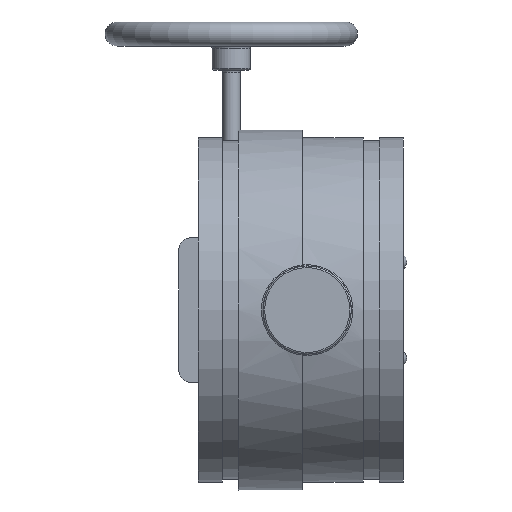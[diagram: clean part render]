
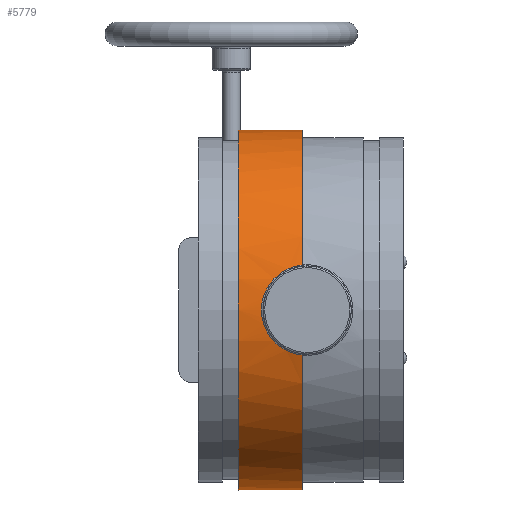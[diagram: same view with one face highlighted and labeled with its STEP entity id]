
A CAD part, front view. The second image highlights one B-rep face of the part: STEP entity #5779.
In plain terms, the highlighted cylindrical face has radius 142.494 mm (diameter 284.988 mm), a full revolution.
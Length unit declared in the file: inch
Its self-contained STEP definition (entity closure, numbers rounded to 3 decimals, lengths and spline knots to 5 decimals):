
#80=B_SPLINE_CURVE_WITH_KNOTS('',3,(#9627,#9628,#9629,#9630,#9631,#9632,
#9633),.UNSPECIFIED.,.F.,.F.,(4,1,1,1,4),(-10.60253,-9.08788,
-7.57324,-6.05859,-5.30132),.UNSPECIFIED.);
#81=B_SPLINE_CURVE_WITH_KNOTS('',3,(#9634,#9635,#9636,#9637,#9638,#9639,
#9640),.UNSPECIFIED.,.F.,.F.,(4,1,1,1,4),(-5.30126,-4.54394,
-3.02929,-1.51465,0.),
 .UNSPECIFIED.);
#87=B_SPLINE_CURVE_WITH_KNOTS('',3,(#9798,#9799,#9800,#9801,#9802),
 .UNSPECIFIED.,.F.,.F.,(4,1,4),(0.,0.13821,0.24186),
 .UNSPECIFIED.);
#88=B_SPLINE_CURVE_WITH_KNOTS('',3,(#9806,#9807,#9808,#9809,#9810),
 .UNSPECIFIED.,.F.,.F.,(4,1,4),(0.,0.10366,0.24186),
 .UNSPECIFIED.);
#385=FACE_OUTER_BOUND('',#748,.T.);
#748=EDGE_LOOP('',(#3798,#3799,#3800,#3801,#3802,#3803,#3804,#3805,#3806,
#3807,#3808,#3809,#3810));
#1158=LINE('',#9796,#1469);
#1159=LINE('',#9812,#1470);
#1160=LINE('',#9815,#1471);
#1469=VECTOR('',#7288,0.3937);
#1470=VECTOR('',#7291,0.3937);
#1471=VECTOR('',#7294,5.61);
#1786=CIRCLE('',#6289,5.61);
#1787=CIRCLE('',#6290,5.61);
#1788=CIRCLE('',#6291,5.61);
#1789=CIRCLE('',#6292,5.61);
#1790=CIRCLE('',#6293,5.61);
#2284=VERTEX_POINT('',#9551);
#2286=VERTEX_POINT('',#9624);
#2287=VERTEX_POINT('',#9626);
#2307=VERTEX_POINT('',#9793);
#2308=VERTEX_POINT('',#9795);
#2309=VERTEX_POINT('',#9797);
#2310=VERTEX_POINT('',#9803);
#2311=VERTEX_POINT('',#9805);
#2312=VERTEX_POINT('',#9811);
#2313=VERTEX_POINT('',#9814);
#2314=VERTEX_POINT('',#9816);
#2832=EDGE_CURVE('',#2286,#2287,#80,.T.);
#2833=EDGE_CURVE('',#2287,#2284,#81,.T.);
#2865=EDGE_CURVE('',#2307,#2286,#1786,.T.);
#2866=EDGE_CURVE('',#2308,#2307,#1158,.T.);
#2867=EDGE_CURVE('',#2309,#2308,#87,.T.);
#2868=EDGE_CURVE('',#2310,#2309,#1787,.T.);
#2869=EDGE_CURVE('',#2311,#2310,#88,.T.);
#2870=EDGE_CURVE('',#2312,#2311,#1159,.T.);
#2871=EDGE_CURVE('',#2284,#2312,#1788,.T.);
#2872=EDGE_CURVE('',#2287,#2313,#1160,.T.);
#2873=EDGE_CURVE('',#2313,#2314,#1789,.T.);
#2874=EDGE_CURVE('',#2314,#2313,#1790,.T.);
#3798=ORIENTED_EDGE('',*,*,#2832,.F.);
#3799=ORIENTED_EDGE('',*,*,#2865,.F.);
#3800=ORIENTED_EDGE('',*,*,#2866,.F.);
#3801=ORIENTED_EDGE('',*,*,#2867,.F.);
#3802=ORIENTED_EDGE('',*,*,#2868,.F.);
#3803=ORIENTED_EDGE('',*,*,#2869,.F.);
#3804=ORIENTED_EDGE('',*,*,#2870,.F.);
#3805=ORIENTED_EDGE('',*,*,#2871,.F.);
#3806=ORIENTED_EDGE('',*,*,#2833,.F.);
#3807=ORIENTED_EDGE('',*,*,#2872,.T.);
#3808=ORIENTED_EDGE('',*,*,#2873,.T.);
#3809=ORIENTED_EDGE('',*,*,#2874,.T.);
#3810=ORIENTED_EDGE('',*,*,#2872,.F.);
#5252=CYLINDRICAL_SURFACE('',#6288,5.61);
#5779=ADVANCED_FACE('',(#385),#5252,.T.);
#6288=AXIS2_PLACEMENT_3D('',#9792,#7284,#7285);
#6289=AXIS2_PLACEMENT_3D('',#9794,#7286,#7287);
#6290=AXIS2_PLACEMENT_3D('',#9804,#7289,#7290);
#6291=AXIS2_PLACEMENT_3D('',#9813,#7292,#7293);
#6292=AXIS2_PLACEMENT_3D('',#9817,#7295,#7296);
#6293=AXIS2_PLACEMENT_3D('',#9818,#7297,#7298);
#7284=DIRECTION('center_axis',(0.,0.,-1.));
#7285=DIRECTION('ref_axis',(0.,1.,0.));
#7286=DIRECTION('center_axis',(0.,0.,-1.));
#7287=DIRECTION('ref_axis',(0.,-1.,0.));
#7288=DIRECTION('',(0.,0.,-1.));
#7289=DIRECTION('center_axis',(0.,0.,-1.));
#7290=DIRECTION('ref_axis',(0.,1.,0.));
#7291=DIRECTION('',(0.,0.,1.));
#7292=DIRECTION('center_axis',(0.,0.,-1.));
#7293=DIRECTION('ref_axis',(0.,-1.,0.));
#7294=DIRECTION('',(0.,0.,1.));
#7295=DIRECTION('center_axis',(0.,0.,-1.));
#7296=DIRECTION('ref_axis',(1.,0.,0.));
#7297=DIRECTION('center_axis',(0.,0.,-1.));
#7298=DIRECTION('ref_axis',(1.,0.,0.));
#9551=CARTESIAN_POINT('',(-1.40348,-5.43161,0.16));
#9624=CARTESIAN_POINT('',(1.40348,-5.43161,0.16));
#9626=CARTESIAN_POINT('',(0.,-5.61,1.425));
#9627=CARTESIAN_POINT('Ctrl Pts',(1.40348,-5.43161,0.16));
#9628=CARTESIAN_POINT('Ctrl Pts',(1.38137,-5.43732,0.35743));
#9629=CARTESIAN_POINT('Ctrl Pts',(1.25406,-5.47077,0.74163));
#9630=CARTESIAN_POINT('Ctrl Pts',(0.85189,-5.55225,1.18828));
#9631=CARTESIAN_POINT('Ctrl Pts',(0.39416,-5.60235,1.39397));
#9632=CARTESIAN_POINT('Ctrl Pts',(0.09854,-5.60991,
1.42488));
#9633=CARTESIAN_POINT('Ctrl Pts',(0.,-5.60992,
1.4249));
#9634=CARTESIAN_POINT('Ctrl Pts',(-0.00002,-5.60992,
1.4249));
#9635=CARTESIAN_POINT('Ctrl Pts',(-0.09857,-5.60993,
1.42491));
#9636=CARTESIAN_POINT('Ctrl Pts',(-0.39419,-5.60244,1.39408));
#9637=CARTESIAN_POINT('Ctrl Pts',(-0.85186,-5.5522,
1.18822));
#9638=CARTESIAN_POINT('Ctrl Pts',(-1.25405,-5.47078,0.74164));
#9639=CARTESIAN_POINT('Ctrl Pts',(-1.38137,-5.43732,0.35743));
#9640=CARTESIAN_POINT('Ctrl Pts',(-1.40348,-5.43161,0.16));
#9792=CARTESIAN_POINT('Origin',(0.,0.,1.15));
#9793=CARTESIAN_POINT('',(1.15794,5.4892,0.16));
#9794=CARTESIAN_POINT('Origin',(0.,0.,0.16));
#9795=CARTESIAN_POINT('',(1.15794,5.4892,1.1));
#9796=CARTESIAN_POINT('',(1.15794,5.4892,1.15));
#9797=CARTESIAN_POINT('',(1.09804,5.50149,1.16));
#9798=CARTESIAN_POINT('Ctrl Pts',(1.09804,5.50149,1.16));
#9799=CARTESIAN_POINT('Ctrl Pts',(1.1158,5.49795,1.16));
#9800=CARTESIAN_POINT('Ctrl Pts',(1.14664,5.4916,1.14529));
#9801=CARTESIAN_POINT('Ctrl Pts',(1.15794,5.4892,1.1136));
#9802=CARTESIAN_POINT('Ctrl Pts',(1.15794,5.4892,1.1));
#9803=CARTESIAN_POINT('',(-1.09804,5.50149,1.16));
#9804=CARTESIAN_POINT('Origin',(0.,0.,1.16));
#9805=CARTESIAN_POINT('',(-1.15794,5.4892,1.1));
#9806=CARTESIAN_POINT('Ctrl Pts',(-1.15794,5.4892,1.1));
#9807=CARTESIAN_POINT('Ctrl Pts',(-1.15794,5.4892,1.1136));
#9808=CARTESIAN_POINT('Ctrl Pts',(-1.14665,5.4916,1.14528));
#9809=CARTESIAN_POINT('Ctrl Pts',(-1.1158,5.49795,1.16));
#9810=CARTESIAN_POINT('Ctrl Pts',(-1.09804,5.50149,1.16));
#9811=CARTESIAN_POINT('',(-1.15794,5.4892,0.16));
#9812=CARTESIAN_POINT('',(-1.15794,5.4892,1.15));
#9813=CARTESIAN_POINT('Origin',(0.,0.,0.16));
#9814=CARTESIAN_POINT('',(0.,-5.61,2.15));
#9815=CARTESIAN_POINT('',(0.,-5.61,1.15));
#9816=CARTESIAN_POINT('',(0.,5.61,2.15));
#9817=CARTESIAN_POINT('Origin',(0.,0.,2.15));
#9818=CARTESIAN_POINT('Origin',(0.,0.,2.15));
